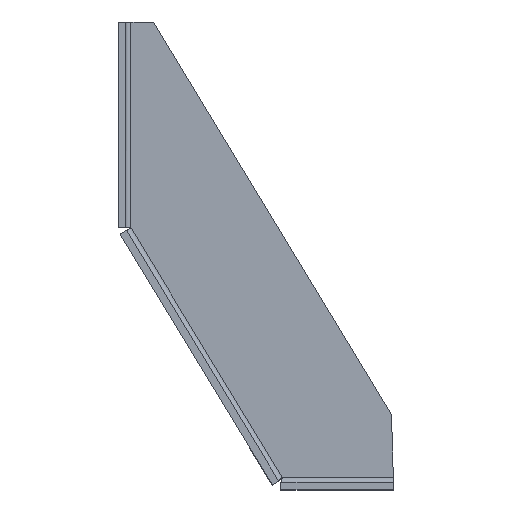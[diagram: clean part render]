
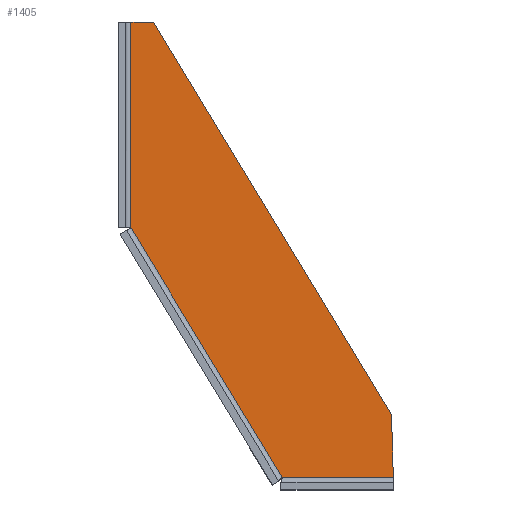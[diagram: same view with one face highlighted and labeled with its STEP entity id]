
A CAD part, top view. The second image highlights one B-rep face of the part: STEP entity #1405.
In plain terms, the highlighted planar face has unit normal (0, 0, 1).
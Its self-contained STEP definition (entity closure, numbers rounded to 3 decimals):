
#13 = CARTESIAN_POINT ( 'NONE',  ( 65.104, 103.962, 19.141 ) ) ;
#14 = VERTEX_POINT ( 'NONE', #1380 ) ;
#15 = LINE ( 'NONE', #1507, #977 ) ;
#26 = DIRECTION ( 'NONE',  ( -1., 0., 0. ) ) ;
#95 = DIRECTION ( 'NONE',  ( -0.519, 0.855, 0. ) ) ;
#103 = CARTESIAN_POINT ( 'NONE',  ( 168.469, 29.988, 19.141 ) ) ;
#163 = DIRECTION ( 'NONE',  ( -0.855, -0.519, 0. ) ) ;
#176 = LINE ( 'NONE', #13, #195 ) ;
#187 = CARTESIAN_POINT ( 'NONE',  ( 60.104, 185.605, 19.141 ) ) ;
#195 = VECTOR ( 'NONE', #1505, 1000. ) ;
#243 = CARTESIAN_POINT ( 'NONE',  ( 169.188, 5., 19.141 ) ) ;
#263 = CARTESIAN_POINT ( 'NONE',  ( 74.091, 185.605, 19.141 ) ) ;
#272 = LINE ( 'NONE', #103, #1144 ) ;
#326 = ORIENTED_EDGE ( 'NONE', *, *, #815, .F. ) ;
#329 = DIRECTION ( 'NONE',  ( 0., 0., -1. ) ) ;
#355 = LINE ( 'NONE', #187, #1369 ) ;
#404 = CARTESIAN_POINT ( 'NONE',  ( 65.104, 185.605, 19.141 ) ) ;
#410 = ORIENTED_EDGE ( 'NONE', *, *, #1141, .T. ) ;
#421 = VECTOR ( 'NONE', #95, 1000. ) ;
#427 = LINE ( 'NONE', #263, #421 ) ;
#431 = CARTESIAN_POINT ( 'NONE',  ( 74.091, 185.605, 19.141 ) ) ;
#500 = CARTESIAN_POINT ( 'NONE',  ( 101.954, 101.384, 19.141 ) ) ;
#638 = ORIENTED_EDGE ( 'NONE', *, *, #902, .T. ) ;
#697 = PLANE ( 'NONE',  #1629 ) ;
#731 = ORIENTED_EDGE ( 'NONE', *, *, #860, .F. ) ;
#735 = DIRECTION ( 'NONE',  ( -1., 0., 0. ) ) ;
#815 = EDGE_CURVE ( 'NONE', #14, #1596, #176, .T. ) ;
#860 = EDGE_CURVE ( 'NONE', #1300, #14, #15, .T. ) ;
#867 = CARTESIAN_POINT ( 'NONE',  ( 168.469, 29.988, 19.141 ) ) ;
#902 = EDGE_CURVE ( 'NONE', #1526, #1596, #355, .T. ) ;
#933 = CARTESIAN_POINT ( 'NONE',  ( 169.332, 5., 19.141 ) ) ;
#977 = VECTOR ( 'NONE', #1345, 1000. ) ;
#1028 = FACE_OUTER_BOUND ( 'NONE', #1178, .T. ) ;
#1091 = LINE ( 'NONE', #933, #1465 ) ;
#1141 = EDGE_CURVE ( 'NONE', #1228, #1526, #427, .T. ) ;
#1144 = VECTOR ( 'NONE', #1592, 1000. ) ;
#1178 = EDGE_LOOP ( 'NONE', ( #1622, #1609, #410, #638, #326, #731 ) ) ;
#1228 = VERTEX_POINT ( 'NONE', #867 ) ;
#1275 = EDGE_CURVE ( 'NONE', #1334, #1228, #272, .T. ) ;
#1300 = VERTEX_POINT ( 'NONE', #1435 ) ;
#1334 = VERTEX_POINT ( 'NONE', #243 ) ;
#1345 = DIRECTION ( 'NONE',  ( -0.519, 0.855, 0. ) ) ;
#1369 = VECTOR ( 'NONE', #26, 1000. ) ;
#1380 = CARTESIAN_POINT ( 'NONE',  ( 65.104, 104.002, 19.141 ) ) ;
#1382 = EDGE_CURVE ( 'NONE', #1334, #1300, #1091, .T. ) ;
#1405 = ADVANCED_FACE ( 'NONE', ( #1028 ), #697, .F. ) ;
#1435 = CARTESIAN_POINT ( 'NONE',  ( 125.147, 5., 19.141 ) ) ;
#1465 = VECTOR ( 'NONE', #735, 1000. ) ;
#1505 = DIRECTION ( 'NONE',  ( 0., 1., 0. ) ) ;
#1507 = CARTESIAN_POINT ( 'NONE',  ( 125.434, 4.528, 19.141 ) ) ;
#1526 = VERTEX_POINT ( 'NONE', #431 ) ;
#1592 = DIRECTION ( 'NONE',  ( -0.029, 1., 0. ) ) ;
#1596 = VERTEX_POINT ( 'NONE', #404 ) ;
#1609 = ORIENTED_EDGE ( 'NONE', *, *, #1275, .T. ) ;
#1622 = ORIENTED_EDGE ( 'NONE', *, *, #1382, .F. ) ;
#1629 = AXIS2_PLACEMENT_3D ( 'NONE', #500, #329, #163 ) ;
